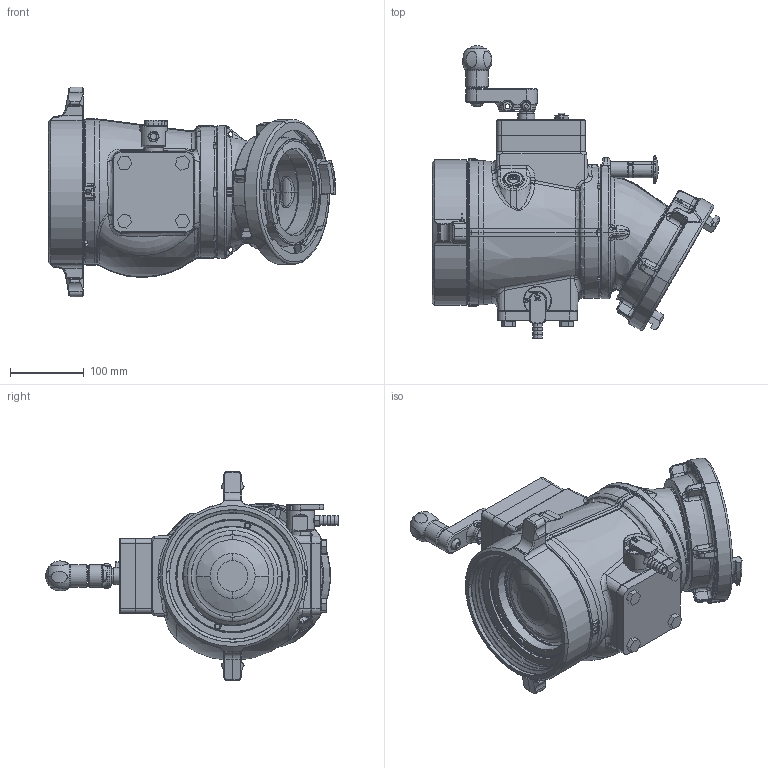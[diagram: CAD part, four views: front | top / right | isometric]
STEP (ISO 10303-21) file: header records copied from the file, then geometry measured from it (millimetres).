
FILE_DESCRIPTION (( 'STEP AP203' ), '1' );
FILE_NAME ('AZ1ST-NX-PS.step', '2014-05-13T19:28:38', ( 'user' ), ( '' ), 'SwSTEP 2.0', 'SolidWorks 2012', '' );
FILE_SCHEMA (( 'CONFIG_CONTROL_DESIGN' ));
Length unit declared in the file: inch
Products named in the file (1): AZ1ST-NX-PS
Bounding box: 388.68 x 395.73 x 283.46 mm (x, y, z)
Surface area: 573720 mm2 (no closed solid volume)
Topology: 0 solids, 73 shells, 1734 faces, 6095 edges, 4271 vertices
Faces by surface type: plane 490, bspline 391, cylinder 378, cone 268, torus 172, sphere 35
Entity records: 104800 total; most frequent: CARTESIAN_POINT 58380, ORIENTED_EDGE 9698, DIRECTION 8320, EDGE_CURVE 6083, VERTEX_POINT 4269, AXIS2_PLACEMENT_3D 3067, LINE 2186, VECTOR 2186
